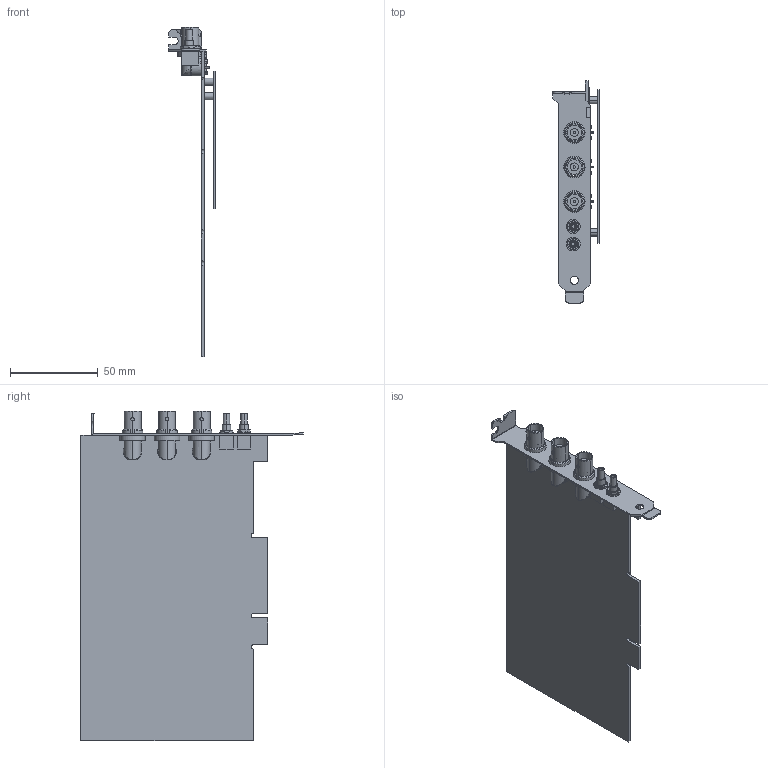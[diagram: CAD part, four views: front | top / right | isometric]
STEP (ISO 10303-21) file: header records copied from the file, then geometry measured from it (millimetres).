
FILE_DESCRIPTION((''),'2;1');
FILE_NAME('CU_PCI-5102','2010-01-13T',('jjorden'),(''),'PRO/ENGINEER BY PARAMETRIC TECHNOLOGY CORPORATION, 2006080','PRO/ENGINEER BY PARAMETRIC TECHNOLOGY CORPORATION, 2006080','');
FILE_SCHEMA(('CONFIG_CONTROL_DESIGN'));
Length unit declared in the file: inch
Products named in the file (1): CU_PCI-5102
Bounding box: 26.54 x 126.95 x 188.09 mm (x, y, z)
Volume: 43591.5 mm3; surface area: 60078 mm2
Topology: 1 solids, 1 shells, 490 faces, 1206 edges, 781 vertices
Faces by surface type: plane 297, cylinder 171, cone 18, bspline 4
Entity records: 15708 total; most frequent: CARTESIAN_POINT 3848, DIRECTION 2442, ORIENTED_EDGE 2412, EDGE_CURVE 1206, AXIS2_PLACEMENT_3D 831, VERTEX_POINT 781, VECTOR 780, LINE 780
